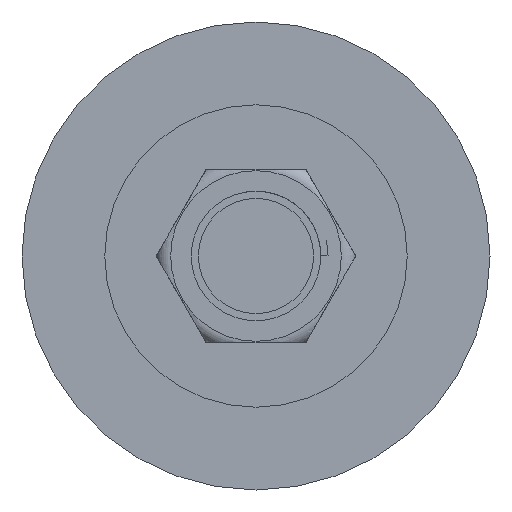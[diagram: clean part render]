
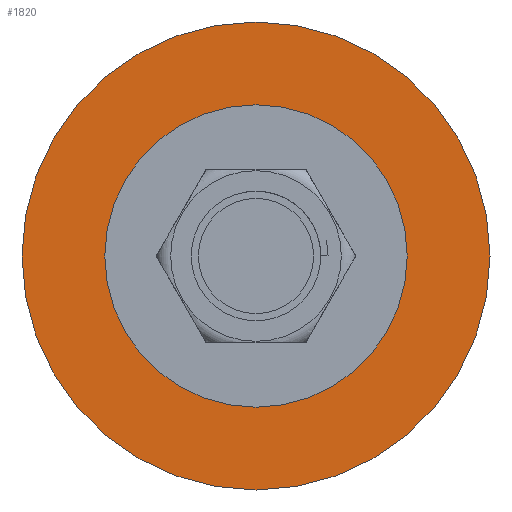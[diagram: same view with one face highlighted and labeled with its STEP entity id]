
A CAD part, front view. The second image highlights one B-rep face of the part: STEP entity #1820.
In plain terms, the highlighted planar face has unit normal (0, -1, 0).
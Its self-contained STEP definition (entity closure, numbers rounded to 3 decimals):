
#134 = DIRECTION ( 'NONE',  ( 0., 0., -1. ) ) ;
#1336 = EDGE_CURVE ( 'NONE', #12256, #14469, #16916, .T. ) ;
#1408 = FACE_BOUND ( 'NONE', #13516, .T. ) ;
#1820 = ADVANCED_FACE ( 'NONE', ( #1408, #12231 ), #7734, .T. ) ;
#1892 = ORIENTED_EDGE ( 'NONE', *, *, #2856, .F. ) ;
#2547 = AXIS2_PLACEMENT_3D ( 'NONE', #10782, #4269, #134 ) ;
#2856 = EDGE_CURVE ( 'NONE', #8191, #6806, #10789, .T. ) ;
#2964 = EDGE_CURVE ( 'NONE', #14469, #12256, #7723, .T. ) ;
#3284 = DIRECTION ( 'NONE',  ( 0., 0., -1. ) ) ;
#3898 = CARTESIAN_POINT ( 'NONE',  ( 0., 0., 0. ) ) ;
#4269 = DIRECTION ( 'NONE',  ( 0., -1., 0. ) ) ;
#4440 = DIRECTION ( 'NONE',  ( 0., -1., 0. ) ) ;
#4488 = DIRECTION ( 'NONE',  ( 0., -1., 0. ) ) ;
#5003 = CARTESIAN_POINT ( 'NONE',  ( 0., 0., -32.5 ) ) ;
#6060 = ORIENTED_EDGE ( 'NONE', *, *, #9315, .F. ) ;
#6322 = CARTESIAN_POINT ( 'NONE',  ( 0., 0., 32.5 ) ) ;
#6783 = AXIS2_PLACEMENT_3D ( 'NONE', #3898, #15521, #13087 ) ;
#6806 = VERTEX_POINT ( 'NONE', #15514 ) ;
#7298 = CIRCLE ( 'NONE', #2547, 21. ) ;
#7723 = CIRCLE ( 'NONE', #12884, 32.5 ) ;
#7734 = PLANE ( 'NONE',  #6783 ) ;
#8191 = VERTEX_POINT ( 'NONE', #11051 ) ;
#8626 = AXIS2_PLACEMENT_3D ( 'NONE', #10045, #12508, #13741 ) ;
#9315 = EDGE_CURVE ( 'NONE', #6806, #8191, #7298, .T. ) ;
#10045 = CARTESIAN_POINT ( 'NONE',  ( 0., 0., 0. ) ) ;
#10782 = CARTESIAN_POINT ( 'NONE',  ( 0., 0., 0. ) ) ;
#10789 = CIRCLE ( 'NONE', #11458, 21. ) ;
#10894 = CARTESIAN_POINT ( 'NONE',  ( 0., 0., 0. ) ) ;
#11051 = CARTESIAN_POINT ( 'NONE',  ( 0., 0., -21. ) ) ;
#11458 = AXIS2_PLACEMENT_3D ( 'NONE', #12262, #4440, #3284 ) ;
#12231 = FACE_OUTER_BOUND ( 'NONE', #15535, .T. ) ;
#12256 = VERTEX_POINT ( 'NONE', #6322 ) ;
#12262 = CARTESIAN_POINT ( 'NONE',  ( 0., 0., 0. ) ) ;
#12508 = DIRECTION ( 'NONE',  ( 0., -1., 0. ) ) ;
#12736 = ORIENTED_EDGE ( 'NONE', *, *, #1336, .T. ) ;
#12884 = AXIS2_PLACEMENT_3D ( 'NONE', #10894, #4488, #13667 ) ;
#13087 = DIRECTION ( 'NONE',  ( 0., 0., -1. ) ) ;
#13516 = EDGE_LOOP ( 'NONE', ( #1892, #6060 ) ) ;
#13667 = DIRECTION ( 'NONE',  ( 0., 0., -1. ) ) ;
#13683 = ORIENTED_EDGE ( 'NONE', *, *, #2964, .T. ) ;
#13741 = DIRECTION ( 'NONE',  ( 0., 0., -1. ) ) ;
#14469 = VERTEX_POINT ( 'NONE', #5003 ) ;
#15514 = CARTESIAN_POINT ( 'NONE',  ( 0., 0., 21. ) ) ;
#15521 = DIRECTION ( 'NONE',  ( 0., -1., 0. ) ) ;
#15535 = EDGE_LOOP ( 'NONE', ( #13683, #12736 ) ) ;
#16916 = CIRCLE ( 'NONE', #8626, 32.5 ) ;
